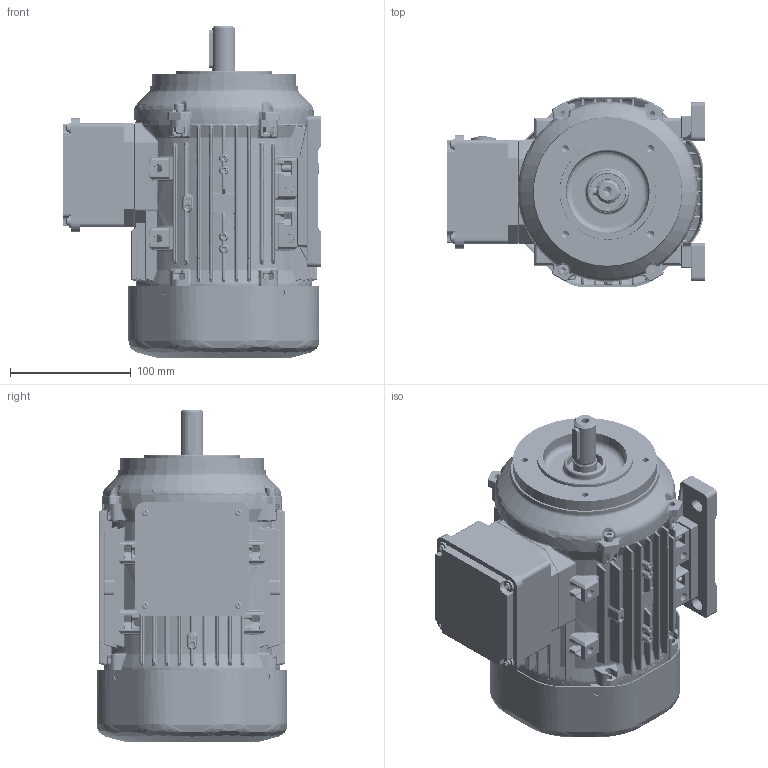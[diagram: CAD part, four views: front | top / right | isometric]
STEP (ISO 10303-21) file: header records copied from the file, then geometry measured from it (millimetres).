
FILE_DESCRIPTION(/* description */ (''),/* implementation_level */ '2;1');
FILE_NAME(/* name */ 'OUTLOOK VIEW QH80 PC B34 FT100 SPL.stp',/* time_stamp */ '2021-09-10T13:24:34+03:00',/* author */ (''),/* organization */ (''),/* preprocessor_version */ 'ST-DEVELOPER v16',/* originating_system */ 'SIEMENS PLM Software NX 11.0',/* authorisation */ '');
FILE_SCHEMA (('AUTOMOTIVE_DESIGN { 1 0 10303 214 3 1 1 1 }'));
Products named in the file (1): 26061960DD717nlt
Bounding box: 214.3 x 158 x 275 mm (x, y, z)
Volume: 2511890.9 mm3; surface area: 1026722.2 mm2
Topology: 52 solids, 56 shells, 11778 faces, 28567 edges, 16367 vertices
Faces by surface type: bspline 3670, cylinder 3254, plane 2523, sphere 849, torus 713, cone 685, extrusion 84
Full cylindrical faces by diameter (mm): 0.1 x2, 3.3 x5, 3.5 x4, 3.985 x3, 4 x4, 4.2 x1, 4.22 x3, 4.5 x4, 5 x9, 5.3 x2, 5.5 x4, 6 x2, 6.4 x1, 6.6 x1, 8 x1, 8.5 x1, 10 x3, 18.38 x2, 18.4 x1, 19 x3, 19.4 x2, 20 x6, 20.2 x2, 20.5 x1, 25 x2, 28.8 x8, 30 x3, 38.45 x4, 40.59 x8, 47 x6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
Entity records: 465133 total; most frequent: CARTESIAN_POINT 172879, ORIENTED_EDGE 54482, DIRECTION 48814, EDGE_CURVE 27241, AXIS2_PLACEMENT_3D 20295, VERTEX_POINT 16165, EDGE_LOOP 12860, ADVANCED_FACE 11774
